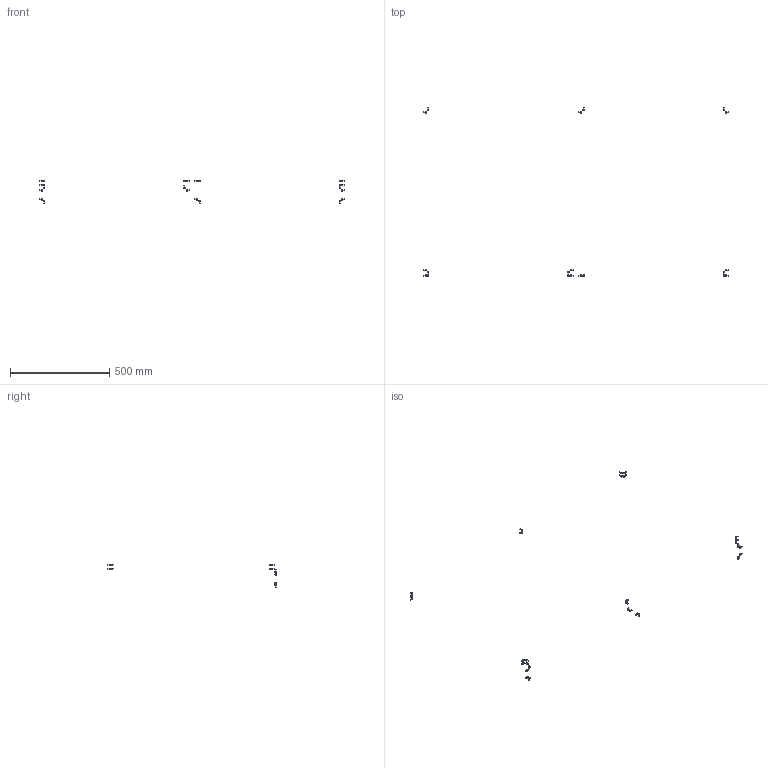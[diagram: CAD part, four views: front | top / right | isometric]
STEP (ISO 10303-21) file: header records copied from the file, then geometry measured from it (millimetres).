
FILE_DESCRIPTION(/* description */ (''),/* implementation_level */ '2;1');
FILE_NAME(/* name */ 'FR974F~1',/* time_stamp */ '2014-02-14T19:34:54+01:00',/* author */ (''),/* organization */ (''),/* preprocessor_version */ 'ST-DEVELOPER v14',/* originating_system */ '',/* authorisation */ '');
FILE_SCHEMA (('AUTOMOTIVE_DESIGN'));
Length unit declared in the file: millimetre
Products named in the file (2): Document; screw DIN912-like, M5x10
Assembly tree (20 placements, depth 2):
  Document
    screw DIN912-like, M5x10  x20
Bounding box: 1535 x 849.75 x 119.75 mm (x, y, z)
Volume: 14028.3 mm3; surface area: 13642.7 mm2
Topology: 32 solids, 32 shells, 800 faces, 1792 edges, 1056 vertices
Faces by surface type: plane 480, bspline 320
Entity records: 17829 total; most frequent: CARTESIAN_POINT 8187, B_SPLINE_CURVE_WITH_KNOTS 1638, ORIENTED_EDGE 1404, PCURVE 1404, DEFINITIONAL_REPRESENTATION 1404, SURFACE_CURVE 702, EDGE_CURVE 702, VERTEX_POINT 429
